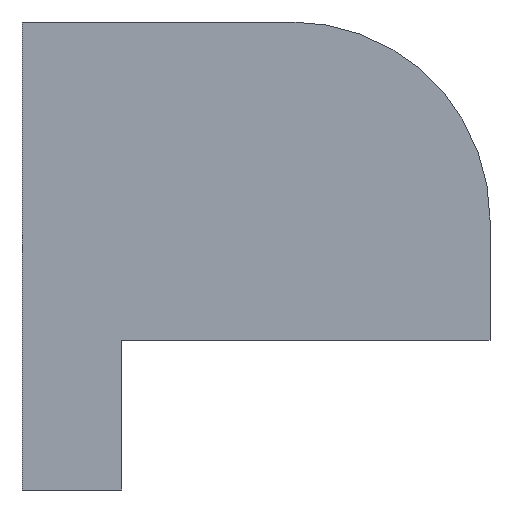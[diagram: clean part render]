
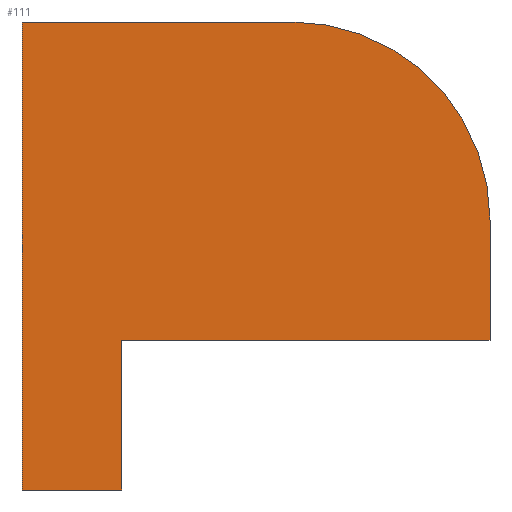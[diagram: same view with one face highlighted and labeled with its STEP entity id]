
A CAD part, left-side view. The second image highlights one B-rep face of the part: STEP entity #111.
In plain terms, the highlighted planar face has unit normal (-1, 0, 0).
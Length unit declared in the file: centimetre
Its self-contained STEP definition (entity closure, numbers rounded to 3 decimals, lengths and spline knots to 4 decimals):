
#3 = ORIENTED_EDGE ( 'NONE', *, *, #271, .F. ) ;
#5 = ORIENTED_EDGE ( 'NONE', *, *, #287, .T. ) ;
#24 = LINE ( 'NONE', #162, #398 ) ;
#27 = FACE_OUTER_BOUND ( 'NONE', #144, .T. ) ;
#30 = DIRECTION ( 'NONE',  ( 0., 0., -1. ) ) ;
#36 = LINE ( 'NONE', #170, #175 ) ;
#37 = VERTEX_POINT ( 'NONE', #442 ) ;
#59 = CARTESIAN_POINT ( 'NONE',  ( 0., 423.1671, 576.8329 ) ) ;
#61 = CARTESIAN_POINT ( 'NONE',  ( 0., 0., 576.8329 ) ) ;
#75 = EDGE_CURVE ( 'NONE', #312, #388, #407, .T. ) ;
#94 = DIRECTION ( 'NONE',  ( 0., 0., -1. ) ) ;
#99 = CARTESIAN_POINT ( 'NONE',  ( 0., 787.2357, 0. ) ) ;
#107 = EDGE_CURVE ( 'NONE', #37, #240, #344, .T. ) ;
#111 = ADVANCED_FACE ( 'NONE', ( #27 ), #128, .F. ) ;
#115 = ORIENTED_EDGE ( 'NONE', *, *, #186, .F. ) ;
#126 = CARTESIAN_POINT ( 'NONE',  ( 0., 787.2357, 320.4824 ) ) ;
#127 = LINE ( 'NONE', #375, #351 ) ;
#128 = PLANE ( 'NONE',  #368 ) ;
#135 = VERTEX_POINT ( 'NONE', #99 ) ;
#141 = VERTEX_POINT ( 'NONE', #61 ) ;
#144 = EDGE_LOOP ( 'NONE', ( #115, #146, #3, #5, #318, #447, #352 ) ) ;
#146 = ORIENTED_EDGE ( 'NONE', *, *, #75, .T. ) ;
#153 = EDGE_CURVE ( 'NONE', #240, #135, #36, .T. ) ;
#158 = VECTOR ( 'NONE', #445, 100. ) ;
#162 = CARTESIAN_POINT ( 'NONE',  ( 0., 1000., 1000. ) ) ;
#166 = DIRECTION ( 'NONE',  ( 0., 0., -1. ) ) ;
#170 = CARTESIAN_POINT ( 'NONE',  ( 0., 1000., 0. ) ) ;
#173 = DIRECTION ( 'NONE',  ( 0., -1., 0. ) ) ;
#175 = VECTOR ( 'NONE', #173, 100. ) ;
#183 = EDGE_CURVE ( 'NONE', #37, #322, #24, .T. ) ;
#186 = EDGE_CURVE ( 'NONE', #312, #135, #197, .T. ) ;
#197 = LINE ( 'NONE', #126, #448 ) ;
#207 = CARTESIAN_POINT ( 'NONE',  ( 0., 1000., 1000. ) ) ;
#235 = CARTESIAN_POINT ( 'NONE',  ( 0., 787.2357, 320.4824 ) ) ;
#240 = VERTEX_POINT ( 'NONE', #369 ) ;
#267 = DIRECTION ( 'NONE',  ( 0., 0., -1. ) ) ;
#270 = DIRECTION ( 'NONE',  ( 0., -1., 0. ) ) ;
#271 = EDGE_CURVE ( 'NONE', #141, #388, #127, .T. ) ;
#287 = EDGE_CURVE ( 'NONE', #141, #322, #340, .T. ) ;
#300 = DIRECTION ( 'NONE',  ( 0., -1., 0. ) ) ;
#312 = VERTEX_POINT ( 'NONE', #440 ) ;
#318 = ORIENTED_EDGE ( 'NONE', *, *, #183, .F. ) ;
#322 = VERTEX_POINT ( 'NONE', #428 ) ;
#332 = VECTOR ( 'NONE', #270, 100. ) ;
#335 = DIRECTION ( 'NONE',  ( -1., 0., 0. ) ) ;
#340 = CIRCLE ( 'NONE', #363, 423.1671 ) ;
#344 = LINE ( 'NONE', #207, #158 ) ;
#347 = DIRECTION ( 'NONE',  ( 1., 0., 0. ) ) ;
#351 = VECTOR ( 'NONE', #166, 100. ) ;
#352 = ORIENTED_EDGE ( 'NONE', *, *, #153, .T. ) ;
#363 = AXIS2_PLACEMENT_3D ( 'NONE', #59, #335, #94 ) ;
#368 = AXIS2_PLACEMENT_3D ( 'NONE', #432, #347, #30 ) ;
#369 = CARTESIAN_POINT ( 'NONE',  ( 0., 1000., 0. ) ) ;
#375 = CARTESIAN_POINT ( 'NONE',  ( 0., 0., 1000. ) ) ;
#388 = VERTEX_POINT ( 'NONE', #430 ) ;
#398 = VECTOR ( 'NONE', #300, 100. ) ;
#407 = LINE ( 'NONE', #235, #332 ) ;
#428 = CARTESIAN_POINT ( 'NONE',  ( 0., 423.1671, 1000. ) ) ;
#430 = CARTESIAN_POINT ( 'NONE',  ( 0., 0., 320.4824 ) ) ;
#432 = CARTESIAN_POINT ( 'NONE',  ( 0., 1000., 1000. ) ) ;
#440 = CARTESIAN_POINT ( 'NONE',  ( 0., 787.2357, 320.4824 ) ) ;
#442 = CARTESIAN_POINT ( 'NONE',  ( 0., 1000., 1000. ) ) ;
#445 = DIRECTION ( 'NONE',  ( 0., 0., -1. ) ) ;
#447 = ORIENTED_EDGE ( 'NONE', *, *, #107, .T. ) ;
#448 = VECTOR ( 'NONE', #267, 100. ) ;
